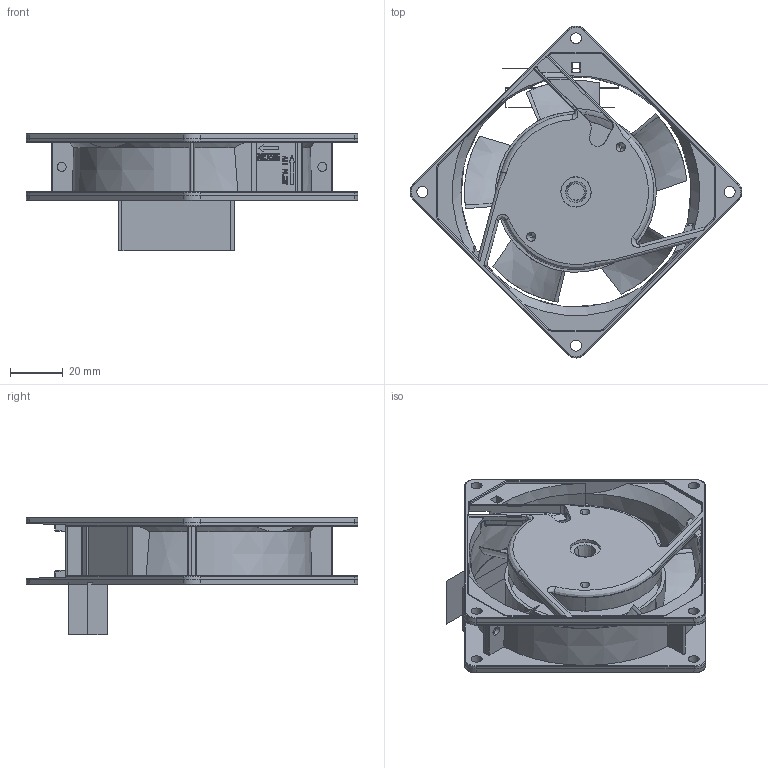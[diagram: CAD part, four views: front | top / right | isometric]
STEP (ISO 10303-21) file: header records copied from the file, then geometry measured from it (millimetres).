
FILE_DESCRIPTION((''),'2;1');
FILE_NAME('MAX9225_ASM','2019-07-22T',('Administrator'),(''),'PRO/ENGINEER BY PARAMETRIC TECHNOLOGY CORPORATION, 2011370','PRO/ENGINEER BY PARAMETRIC TECHNOLOGY CORPORATION, 2011370','');
FILE_SCHEMA(('CONFIG_CONTROL_DESIGN'));
Length unit declared in the file: millimetre
Products named in the file (3): 9225; 9225YE; MAX9225_ASM
Assembly tree (2 placements, depth 2):
  MAX9225_ASM
    9225
    9225YE
Bounding box: 126.03 x 126.03 x 44.7 mm (x, y, z)
Volume: 36491.2 mm3; surface area: 50422.9 mm2
Topology: 2 solids, 4 shells, 865 faces, 2425 edges, 1586 vertices
Faces by surface type: plane 500, cylinder 183, bspline 77, cone 70, torus 33, extrusion 2
Entity records: 34364 total; most frequent: CARTESIAN_POINT 12844, ORIENTED_EDGE 4826, DIRECTION 3923, EDGE_CURVE 2419, VERTEX_POINT 1586, VECTOR 1497, LINE 1495, AXIS2_PLACEMENT_3D 1213
